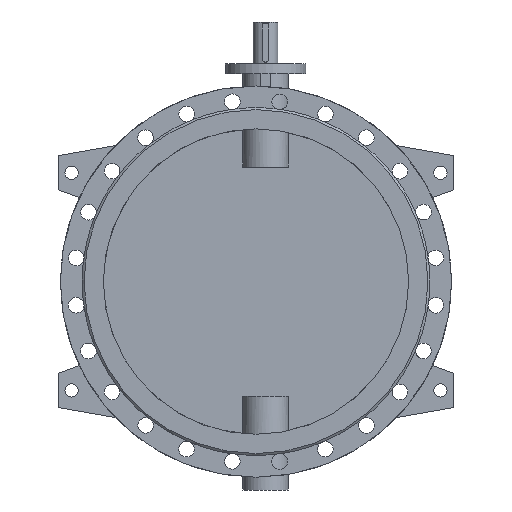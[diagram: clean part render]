
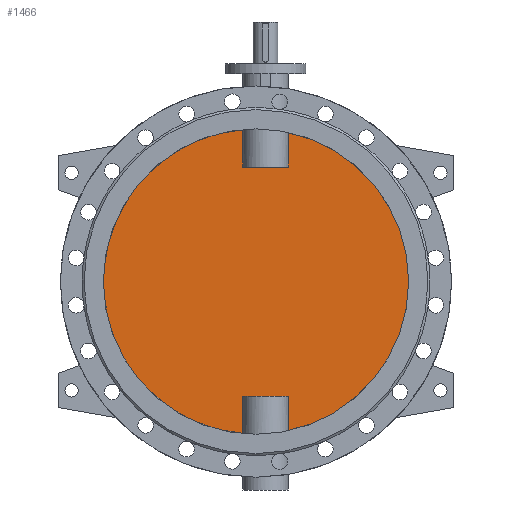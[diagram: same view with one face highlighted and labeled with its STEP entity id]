
A CAD part, front view. The second image highlights one B-rep face of the part: STEP entity #1466.
In plain terms, the highlighted planar face has unit normal (0, -1, 0).
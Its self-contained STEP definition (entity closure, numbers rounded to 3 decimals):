
#1466=ADVANCED_FACE('',(#3024),#3026,.F.);
#3024=FACE_BOUND('',#3025,.T.);
#3025=EDGE_LOOP('',(#4173,#4174,#4175,#4176,#4177,#4178,#4179,#4180));
#3026=PLANE('',#3027);
#3027=AXIS2_PLACEMENT_3D('',#3028,#3029,#3030);
#3028=CARTESIAN_POINT('',(0.,-5.,0.));
#3029=DIRECTION('',(0.,1.,0.));
#3030=DIRECTION('',(1.,0.,0.));
#4173=ORIENTED_EDGE('',*,*,#4758,.T.);
#4174=ORIENTED_EDGE('',*,*,#4764,.T.);
#4175=ORIENTED_EDGE('',*,*,#4765,.T.);
#4176=ORIENTED_EDGE('',*,*,#4766,.T.);
#4177=ORIENTED_EDGE('',*,*,#4760,.T.);
#4178=ORIENTED_EDGE('',*,*,#4767,.T.);
#4179=ORIENTED_EDGE('',*,*,#4768,.T.);
#4180=ORIENTED_EDGE('',*,*,#4769,.T.);
#4758=EDGE_CURVE('',#5693,#5694,#5695,.F.);
#4760=EDGE_CURVE('',#5698,#5696,#5699,.F.);
#4764=EDGE_CURVE('',#5694,#5705,#5706,.T.);
#4765=EDGE_CURVE('',#5705,#5707,#5708,.F.);
#4766=EDGE_CURVE('',#5707,#5698,#5709,.F.);
#4767=EDGE_CURVE('',#5696,#5710,#5711,.F.);
#4768=EDGE_CURVE('',#5710,#5712,#5713,.F.);
#4769=EDGE_CURVE('',#5712,#5693,#5714,.T.);
#5693=VERTEX_POINT('',#10958);
#5694=VERTEX_POINT('',#10959);
#5695=CIRCLE('',#10960,400.);
#5696=VERTEX_POINT('',#10964);
#5698=VERTEX_POINT('',#11071);
#5699=CIRCLE('',#11072,400.);
#5705=VERTEX_POINT('',#11193);
#5706=LINE('',#11194,#11195);
#5707=VERTEX_POINT('',#11197);
#5708=LINE('',#11198,#11199);
#5709=LINE('',#11201,#11202);
#5710=VERTEX_POINT('',#11204);
#5711=LINE('',#11205,#11206);
#5712=VERTEX_POINT('',#11208);
#5713=LINE('',#11209,#11210);
#5714=LINE('',#11212,#11213);
#10958=CARTESIAN_POINT('',(84.791,-5.,-390.91));
#10959=CARTESIAN_POINT('',(84.791,-5.,390.91));
#10960=AXIS2_PLACEMENT_3D('',#10961,#10962,#10963);
#10961=CARTESIAN_POINT('',(0.,-5.,0.));
#10962=DIRECTION('',(0.,1.,0.));
#10963=DIRECTION('',(0.212,0.,0.977));
#10964=CARTESIAN_POINT('',(-34.791,-5.,-398.484));
#11071=CARTESIAN_POINT('',(-34.791,-5.,398.484));
#11072=AXIS2_PLACEMENT_3D('',#11073,#11074,#11075);
#11073=CARTESIAN_POINT('',(0.,-5.,0.));
#11074=DIRECTION('',(0.,1.,0.));
#11075=DIRECTION('',(-0.087,0.,-0.996));
#11193=CARTESIAN_POINT('',(84.791,-5.,300.));
#11194=CARTESIAN_POINT('',(84.791,-5.,390.91));
#11195=VECTOR('',#11196,1.);
#11196=DIRECTION('',(0.,0.,-1.));
#11197=CARTESIAN_POINT('',(-34.791,-5.,300.));
#11198=CARTESIAN_POINT('',(-34.791,-5.,300.));
#11199=VECTOR('',#11200,1.);
#11200=DIRECTION('',(1.,0.,0.));
#11201=CARTESIAN_POINT('',(-34.791,-5.,398.484));
#11202=VECTOR('',#11203,1.);
#11203=DIRECTION('',(0.,0.,-1.));
#11204=CARTESIAN_POINT('',(-34.791,-5.,-300.));
#11205=CARTESIAN_POINT('',(-34.791,-5.,-300.));
#11206=VECTOR('',#11207,1.);
#11207=DIRECTION('',(0.,0.,-1.));
#11208=CARTESIAN_POINT('',(84.791,-5.,-300.));
#11209=CARTESIAN_POINT('',(84.791,-5.,-300.));
#11210=VECTOR('',#11211,1.);
#11211=DIRECTION('',(-1.,0.,0.));
#11212=CARTESIAN_POINT('',(84.791,-5.,-300.));
#11213=VECTOR('',#11214,1.);
#11214=DIRECTION('',(0.,0.,-1.));
